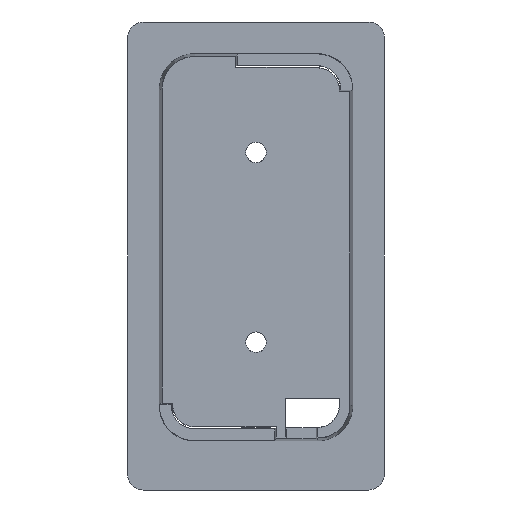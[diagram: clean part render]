
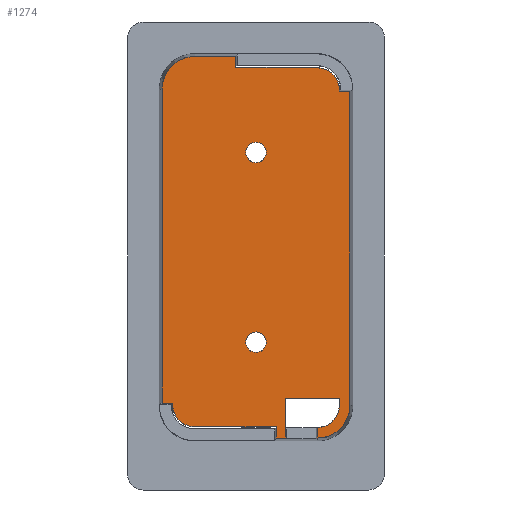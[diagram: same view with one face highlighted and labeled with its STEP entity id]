
A CAD part, front view. The second image highlights one B-rep face of the part: STEP entity #1274.
In plain terms, the highlighted planar face has unit normal (0, -1, 0).
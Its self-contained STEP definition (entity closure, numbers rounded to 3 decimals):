
#46=ELLIPSE('',#1359,2.8,2.8);
#47=ELLIPSE('',#1361,2.8,2.8);
#58=CIRCLE('',#1357,2.799);
#59=CIRCLE('',#1358,4.125);
#60=CIRCLE('',#1360,4.125);
#61=CIRCLE('',#1362,1.3);
#62=CIRCLE('',#1363,1.3);
#92=ORIENTED_EDGE('',*,*,#468,.T.);
#93=ORIENTED_EDGE('',*,*,#469,.T.);
#94=ORIENTED_EDGE('',*,*,#470,.T.);
#95=ORIENTED_EDGE('',*,*,#471,.T.);
#96=ORIENTED_EDGE('',*,*,#472,.T.);
#97=ORIENTED_EDGE('',*,*,#473,.T.);
#98=ORIENTED_EDGE('',*,*,#474,.T.);
#99=ORIENTED_EDGE('',*,*,#475,.F.);
#100=ORIENTED_EDGE('',*,*,#476,.F.);
#101=ORIENTED_EDGE('',*,*,#477,.F.);
#102=ORIENTED_EDGE('',*,*,#478,.F.);
#103=ORIENTED_EDGE('',*,*,#479,.F.);
#104=ORIENTED_EDGE('',*,*,#480,.F.);
#105=ORIENTED_EDGE('',*,*,#481,.F.);
#106=ORIENTED_EDGE('',*,*,#482,.T.);
#107=ORIENTED_EDGE('',*,*,#483,.T.);
#108=ORIENTED_EDGE('',*,*,#484,.T.);
#109=ORIENTED_EDGE('',*,*,#485,.T.);
#110=ORIENTED_EDGE('',*,*,#486,.T.);
#111=ORIENTED_EDGE('',*,*,#487,.T.);
#112=ORIENTED_EDGE('',*,*,#488,.T.);
#113=ORIENTED_EDGE('',*,*,#489,.T.);
#114=ORIENTED_EDGE('',*,*,#490,.T.);
#115=ORIENTED_EDGE('',*,*,#491,.T.);
#468=EDGE_CURVE('',#656,#657,#781,.F.);
#469=EDGE_CURVE('',#657,#658,#782,.T.);
#470=EDGE_CURVE('',#658,#659,#783,.T.);
#471=EDGE_CURVE('',#659,#660,#784,.T.);
#472=EDGE_CURVE('',#660,#661,#785,.T.);
#473=EDGE_CURVE('',#661,#662,#58,.T.);
#474=EDGE_CURVE('',#662,#663,#786,.T.);
#475=EDGE_CURVE('',#664,#663,#59,.T.);
#476=EDGE_CURVE('',#665,#664,#787,.F.);
#477=EDGE_CURVE('',#666,#665,#788,.F.);
#478=EDGE_CURVE('',#667,#666,#789,.T.);
#479=EDGE_CURVE('',#668,#667,#46,.T.);
#480=EDGE_CURVE('',#669,#668,#790,.F.);
#481=EDGE_CURVE('',#670,#669,#791,.T.);
#482=EDGE_CURVE('',#670,#671,#792,.F.);
#483=EDGE_CURVE('',#671,#672,#60,.F.);
#484=EDGE_CURVE('',#672,#673,#793,.F.);
#485=EDGE_CURVE('',#673,#674,#794,.F.);
#486=EDGE_CURVE('',#674,#675,#795,.T.);
#487=EDGE_CURVE('',#675,#676,#47,.F.);
#488=EDGE_CURVE('',#676,#677,#796,.T.);
#489=EDGE_CURVE('',#677,#656,#797,.T.);
#490=EDGE_CURVE('',#678,#678,#61,.T.);
#491=EDGE_CURVE('',#679,#679,#62,.T.);
#656=VERTEX_POINT('',#1836);
#657=VERTEX_POINT('',#1837);
#658=VERTEX_POINT('',#1839);
#659=VERTEX_POINT('',#1841);
#660=VERTEX_POINT('',#1843);
#661=VERTEX_POINT('',#1845);
#662=VERTEX_POINT('',#1847);
#663=VERTEX_POINT('',#1849);
#664=VERTEX_POINT('',#1851);
#665=VERTEX_POINT('',#1853);
#666=VERTEX_POINT('',#1855);
#667=VERTEX_POINT('',#1857);
#668=VERTEX_POINT('',#1859);
#669=VERTEX_POINT('',#1861);
#670=VERTEX_POINT('',#1863);
#671=VERTEX_POINT('',#1865);
#672=VERTEX_POINT('',#1867);
#673=VERTEX_POINT('',#1869);
#674=VERTEX_POINT('',#1871);
#675=VERTEX_POINT('',#1873);
#676=VERTEX_POINT('',#1875);
#677=VERTEX_POINT('',#1877);
#678=VERTEX_POINT('',#1880);
#679=VERTEX_POINT('',#1882);
#781=LINE('',#1835,#923);
#782=LINE('',#1838,#924);
#783=LINE('',#1840,#925);
#784=LINE('',#1842,#926);
#785=LINE('',#1844,#927);
#786=LINE('',#1848,#928);
#787=LINE('',#1852,#929);
#788=LINE('',#1854,#930);
#789=LINE('',#1856,#931);
#790=LINE('',#1860,#932);
#791=LINE('',#1862,#933);
#792=LINE('',#1864,#934);
#793=LINE('',#1868,#935);
#794=LINE('',#1870,#936);
#795=LINE('',#1872,#937);
#796=LINE('',#1876,#938);
#797=LINE('',#1878,#939);
#923=VECTOR('',#1471,1000.);
#924=VECTOR('',#1472,1000.);
#925=VECTOR('',#1473,1000.);
#926=VECTOR('',#1474,1000.);
#927=VECTOR('',#1475,1000.);
#928=VECTOR('',#1478,1000.);
#929=VECTOR('',#1481,1000.);
#930=VECTOR('',#1482,1000.);
#931=VECTOR('',#1483,1000.);
#932=VECTOR('',#1486,1000.);
#933=VECTOR('',#1487,1000.);
#934=VECTOR('',#1488,1000.);
#935=VECTOR('',#1491,1000.);
#936=VECTOR('',#1492,1000.);
#937=VECTOR('',#1493,1000.);
#938=VECTOR('',#1496,1000.);
#939=VECTOR('',#1497,1000.);
#1065=EDGE_LOOP('',(#92,#93,#94,#95,#96,#97,#98,#99,#100,#101,#102,#103,
#104,#105,#106,#107,#108,#109,#110,#111,#112,#113));
#1066=EDGE_LOOP('',(#114));
#1067=EDGE_LOOP('',(#115));
#1148=FACE_BOUND('',#1065,.T.);
#1149=FACE_BOUND('',#1066,.T.);
#1150=FACE_BOUND('',#1067,.T.);
#1231=PLANE('',#1356);
#1274=ADVANCED_FACE('',(#1148,#1149,#1150),#1231,.F.);
#1356=AXIS2_PLACEMENT_3D('',#1834,#1469,#1470);
#1357=AXIS2_PLACEMENT_3D('',#1846,#1476,#1477);
#1358=AXIS2_PLACEMENT_3D('',#1850,#1479,#1480);
#1359=AXIS2_PLACEMENT_3D('',#1858,#1484,#1485);
#1360=AXIS2_PLACEMENT_3D('',#1866,#1489,#1490);
#1361=AXIS2_PLACEMENT_3D('',#1874,#1494,#1495);
#1362=AXIS2_PLACEMENT_3D('',#1879,#1498,#1499);
#1363=AXIS2_PLACEMENT_3D('',#1881,#1500,#1501);
#1469=DIRECTION('',(0.,1.,0.));
#1470=DIRECTION('',(0.,0.,1.));
#1471=DIRECTION('',(-1.,0.,0.));
#1472=DIRECTION('',(0.,0.,1.));
#1473=DIRECTION('',(0.,0.,1.));
#1474=DIRECTION('',(1.,0.,0.));
#1475=DIRECTION('',(0.,0.,-1.));
#1476=DIRECTION('',(0.,1.,0.));
#1477=DIRECTION('',(0.,0.,1.));
#1478=DIRECTION('',(0.,0.,-1.));
#1479=DIRECTION('',(0.,1.,0.));
#1480=DIRECTION('',(0.,0.,1.));
#1481=DIRECTION('',(0.,0.,1.));
#1482=DIRECTION('',(-1.,0.,0.));
#1483=DIRECTION('',(0.,0.,-1.));
#1484=DIRECTION('',(0.,1.,0.));
#1485=DIRECTION('',(0.707,0.,0.707));
#1486=DIRECTION('',(-1.,0.,0.));
#1487=DIRECTION('',(0.,0.,-1.));
#1488=DIRECTION('',(1.,0.,0.));
#1489=DIRECTION('',(0.,1.,0.));
#1490=DIRECTION('',(0.,0.,1.));
#1491=DIRECTION('',(0.,0.,1.));
#1492=DIRECTION('',(-1.,0.,0.));
#1493=DIRECTION('',(0.,0.,-1.));
#1494=DIRECTION('',(0.,1.,0.));
#1495=DIRECTION('',(0.707,0.,0.707));
#1496=DIRECTION('',(1.,0.,0.));
#1497=DIRECTION('',(0.,0.,-1.));
#1498=DIRECTION('',(0.,1.,0.));
#1499=DIRECTION('',(0.,0.,1.));
#1500=DIRECTION('',(0.,1.,0.));
#1501=DIRECTION('',(0.,0.,1.));
#1834=CARTESIAN_POINT('',(0.,0.,0.));
#1835=CARTESIAN_POINT('',(0.,0.,-24.125));
#1836=CARTESIAN_POINT('',(2.55,0.,-24.125));
#1837=CARTESIAN_POINT('',(3.75,0.,-24.125));
#1838=CARTESIAN_POINT('',(3.75,0.,0.));
#1839=CARTESIAN_POINT('',(3.75,0.,-22.799));
#1840=CARTESIAN_POINT('',(3.75,0.,0.));
#1841=CARTESIAN_POINT('',(3.75,0.,-19.1));
#1842=CARTESIAN_POINT('',(0.,0.,-19.1));
#1843=CARTESIAN_POINT('',(10.549,0.,-19.1));
#1844=CARTESIAN_POINT('',(10.549,0.,-1.1));
#1845=CARTESIAN_POINT('',(10.549,0.,-20.));
#1846=CARTESIAN_POINT('',(7.75,0.,-20.));
#1847=CARTESIAN_POINT('',(7.75,0.,-22.799));
#1848=CARTESIAN_POINT('',(7.75,0.,0.));
#1849=CARTESIAN_POINT('',(7.75,0.,-24.125));
#1850=CARTESIAN_POINT('',(7.75,0.,-20.));
#1851=CARTESIAN_POINT('',(11.875,0.,-20.));
#1852=CARTESIAN_POINT('',(11.875,0.,-1.1));
#1853=CARTESIAN_POINT('',(11.875,0.,19.7));
#1854=CARTESIAN_POINT('',(0.,0.,19.7));
#1855=CARTESIAN_POINT('',(10.55,0.,19.7));
#1856=CARTESIAN_POINT('',(10.55,0.,0.));
#1857=CARTESIAN_POINT('',(10.55,0.,19.9));
#1858=CARTESIAN_POINT('',(7.75,0.,19.9));
#1859=CARTESIAN_POINT('',(7.75,0.,22.7));
#1860=CARTESIAN_POINT('',(0.,0.,22.7));
#1861=CARTESIAN_POINT('',(-2.55,0.,22.7));
#1862=CARTESIAN_POINT('',(-2.55,0.,0.));
#1863=CARTESIAN_POINT('',(-2.55,0.,24.125));
#1864=CARTESIAN_POINT('',(0.,0.,24.125));
#1865=CARTESIAN_POINT('',(-7.75,0.,24.125));
#1866=CARTESIAN_POINT('',(-7.75,0.,20.));
#1867=CARTESIAN_POINT('',(-11.875,0.,20.));
#1868=CARTESIAN_POINT('',(-11.875,0.,0.));
#1869=CARTESIAN_POINT('',(-11.875,0.,-19.7));
#1870=CARTESIAN_POINT('',(0.,0.,-19.7));
#1871=CARTESIAN_POINT('',(-10.55,0.,-19.7));
#1872=CARTESIAN_POINT('',(-10.55,0.,1.275));
#1873=CARTESIAN_POINT('',(-10.55,0.,-19.9));
#1874=CARTESIAN_POINT('',(-7.75,0.,-19.9));
#1875=CARTESIAN_POINT('',(-7.75,0.,-22.7));
#1876=CARTESIAN_POINT('',(0.,0.,-22.7));
#1877=CARTESIAN_POINT('',(2.55,0.,-22.7));
#1878=CARTESIAN_POINT('',(2.55,0.,1.275));
#1879=CARTESIAN_POINT('',(0.,0.,-12.));
#1880=CARTESIAN_POINT('',(0.,0.,-10.7));
#1881=CARTESIAN_POINT('',(0.,0.,12.));
#1882=CARTESIAN_POINT('',(0.,0.,13.3));
